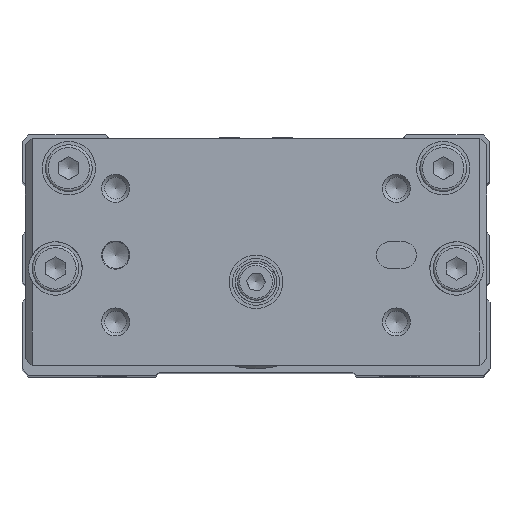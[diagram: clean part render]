
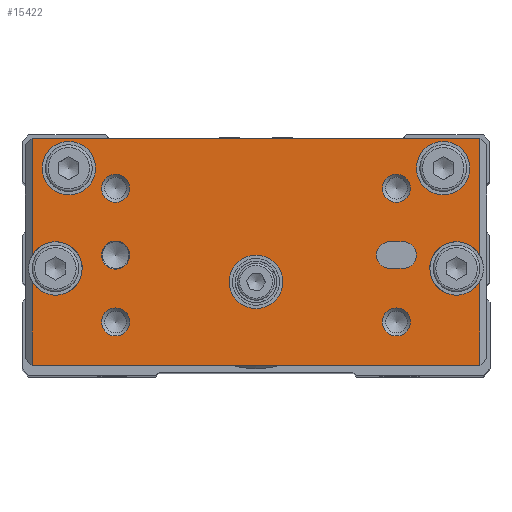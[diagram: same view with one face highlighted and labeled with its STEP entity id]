
A CAD part, top view. The second image highlights one B-rep face of the part: STEP entity #15422.
In plain terms, the highlighted planar face has unit normal (0, 0, 1).
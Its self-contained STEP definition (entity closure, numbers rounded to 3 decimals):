
#14778=CARTESIAN_POINT('',(0.634,10.496,85.028));
#14779=VERTEX_POINT('',#14778);
#14780=CARTESIAN_POINT('',(4.634,10.496,85.028));
#14781=VERTEX_POINT('',#14780);
#14782=CARTESIAN_POINT('',(2.634,10.496,85.028));
#14783=DIRECTION('',(0.0,0.0,-1.0));
#14784=DIRECTION('',(-1.0,0.0,0.0));
#14785=AXIS2_PLACEMENT_3D('',#14782,#14783,#14784);
#14786=CIRCLE('',#14785,2.0);
#14787=EDGE_CURVE('',#14779,#14781,#14786,.T.);
#14810=CARTESIAN_POINT('',(0.634,8.496,85.028));
#14811=VERTEX_POINT('',#14810);
#14812=CARTESIAN_POINT('',(0.634,8.496,85.028));
#14813=DIRECTION('',(0.0,1.0,0.0));
#14814=VECTOR('',#14813,2.);
#14815=LINE('',#14812,#14814);
#14816=EDGE_CURVE('',#14811,#14779,#14815,.T.);
#14834=CARTESIAN_POINT('',(4.634,8.496,85.028));
#14835=VERTEX_POINT('',#14834);
#14836=CARTESIAN_POINT('',(2.634,8.496,85.028));
#14837=DIRECTION('',(0.0,0.0,-1.0));
#14838=DIRECTION('',(1.0,0.0,0.0));
#14839=AXIS2_PLACEMENT_3D('',#14836,#14837,#14838);
#14840=CIRCLE('',#14839,2.0);
#14841=EDGE_CURVE('',#14835,#14811,#14840,.T.);
#14859=CARTESIAN_POINT('',(4.634,10.496,85.028));
#14860=DIRECTION('',(0.0,-1.0,0.0));
#14861=VECTOR('',#14860,2.);
#14862=LINE('',#14859,#14861);
#14863=EDGE_CURVE('',#14781,#14835,#14862,.T.);
#14893=CARTESIAN_POINT('',(4.734,-32.504,85.028));
#14894=VERTEX_POINT('',#14893);
#14895=CARTESIAN_POINT('',(2.634,-32.504,85.028));
#14896=DIRECTION('',(0.0,0.0,-1.0));
#14897=DIRECTION('',(1.0,0.0,0.0));
#14898=AXIS2_PLACEMENT_3D('',#14895,#14896,#14897);
#14899=CIRCLE('',#14898,2.1);
#14900=EDGE_CURVE('',#14894,#14894,#14899,.T.);
#14950=CARTESIAN_POINT('',(14.734,9.496,85.028));
#14951=VERTEX_POINT('',#14950);
#14952=CARTESIAN_POINT('',(12.634,9.496,85.028));
#14953=DIRECTION('',(0.0,0.0,-1.0));
#14954=DIRECTION('',(1.0,0.0,0.0));
#14955=AXIS2_PLACEMENT_3D('',#14952,#14953,#14954);
#14956=CIRCLE('',#14955,2.1);
#14957=EDGE_CURVE('',#14951,#14951,#14956,.T.);
#15007=CARTESIAN_POINT('',(-5.266,-32.504,85.028));
#15008=VERTEX_POINT('',#15007);
#15009=CARTESIAN_POINT('',(-7.366,-32.504,85.028));
#15010=DIRECTION('',(0.0,0.0,-1.0));
#15011=DIRECTION('',(1.0,0.0,0.0));
#15012=AXIS2_PLACEMENT_3D('',#15009,#15010,#15011);
#15013=CIRCLE('',#15012,2.1);
#15014=EDGE_CURVE('',#15008,#15008,#15013,.T.);
#15064=CARTESIAN_POINT('',(14.734,-32.504,85.028));
#15065=VERTEX_POINT('',#15064);
#15066=CARTESIAN_POINT('',(12.634,-32.504,85.028));
#15067=DIRECTION('',(0.0,0.0,-1.0));
#15068=DIRECTION('',(1.0,0.0,0.0));
#15069=AXIS2_PLACEMENT_3D('',#15066,#15067,#15068);
#15070=CIRCLE('',#15069,2.1);
#15071=EDGE_CURVE('',#15065,#15065,#15070,.T.);
#15121=CARTESIAN_POINT('',(-5.266,9.496,85.028));
#15122=VERTEX_POINT('',#15121);
#15123=CARTESIAN_POINT('',(-7.366,9.496,85.028));
#15124=DIRECTION('',(0.0,0.0,-1.0));
#15125=DIRECTION('',(1.0,0.0,0.0));
#15126=AXIS2_PLACEMENT_3D('',#15123,#15124,#15125);
#15127=CIRCLE('',#15126,2.1);
#15128=EDGE_CURVE('',#15122,#15122,#15127,.T.);
#15161=CARTESIAN_POINT('',(6.571,-45.004,85.028));
#15162=VERTEX_POINT('',#15161);
#15163=CARTESIAN_POINT('',(2.698,-45.004,85.028));
#15164=VERTEX_POINT('',#15163);
#15172=CARTESIAN_POINT('',(-14.866,-45.004,85.028));
#15173=VERTEX_POINT('',#15172);
#15174=CARTESIAN_POINT('',(2.698,-45.004,85.028));
#15175=DIRECTION('',(-1.0,0.0,0.0));
#15176=VECTOR('',#15175,17.564);
#15177=LINE('',#15174,#15176);
#15178=EDGE_CURVE('',#15164,#15173,#15177,.T.);
#15196=CARTESIAN_POINT('',(19.134,-45.004,85.028));
#15197=VERTEX_POINT('',#15196);
#15204=CARTESIAN_POINT('',(19.134,-45.004,85.028));
#15205=DIRECTION('',(-1.0,0.0,0.0));
#15206=VECTOR('',#15205,12.564);
#15207=LINE('',#15204,#15206);
#15208=EDGE_CURVE('',#15197,#15162,#15207,.T.);
#15257=CARTESIAN_POINT('',(2.698,21.996,85.028));
#15258=VERTEX_POINT('',#15257);
#15259=CARTESIAN_POINT('',(6.571,21.996,85.028));
#15260=VERTEX_POINT('',#15259);
#15268=CARTESIAN_POINT('',(19.134,21.996,85.028));
#15269=VERTEX_POINT('',#15268);
#15270=CARTESIAN_POINT('',(6.571,21.996,85.028));
#15271=DIRECTION('',(1.0,0.0,0.0));
#15272=VECTOR('',#15271,12.564);
#15273=LINE('',#15270,#15272);
#15274=EDGE_CURVE('',#15260,#15269,#15273,.T.);
#15292=CARTESIAN_POINT('',(-14.866,21.996,85.028));
#15293=VERTEX_POINT('',#15292);
#15300=CARTESIAN_POINT('',(-14.866,21.996,85.028));
#15301=DIRECTION('',(1.0,0.0,0.0));
#15302=VECTOR('',#15301,17.564);
#15303=LINE('',#15300,#15302);
#15304=EDGE_CURVE('',#15293,#15258,#15303,.T.);
#15331=CARTESIAN_POINT('',(2.134,-11.504,85.028));
#15332=DIRECTION('',(0.0,0.0,1.0));
#15333=DIRECTION('',(1.0,0.0,0.0));
#15334=AXIS2_PLACEMENT_3D('',#15331,#15332,#15333);
#15335=PLANE('',#15334);
#15336=ORIENTED_EDGE('',*,*,#15208,.F.);
#15337=CARTESIAN_POINT('',(19.134,-45.004,85.028));
#15338=DIRECTION('',(0.0,1.0,0.0));
#15339=VECTOR('',#15338,67.);
#15340=LINE('',#15337,#15339);
#15341=EDGE_CURVE('',#15197,#15269,#15340,.T.);
#15342=ORIENTED_EDGE('',*,*,#15341,.T.);
#15343=ORIENTED_EDGE('',*,*,#15274,.F.);
#15344=CARTESIAN_POINT('',(4.634,18.496,85.028));
#15345=DIRECTION('',(0.0,0.0,-1.0));
#15346=DIRECTION('',(1.0,0.0,0.0));
#15347=AXIS2_PLACEMENT_3D('',#15344,#15345,#15346);
#15348=CIRCLE('',#15347,4.);
#15349=EDGE_CURVE('',#15260,#15258,#15348,.T.);
#15350=ORIENTED_EDGE('',*,*,#15349,.T.);
#15351=ORIENTED_EDGE('',*,*,#15304,.F.);
#15352=CARTESIAN_POINT('',(-14.866,21.996,85.028));
#15353=DIRECTION('',(0.0,-1.0,0.0));
#15354=VECTOR('',#15353,67.);
#15355=LINE('',#15352,#15354);
#15356=EDGE_CURVE('',#15293,#15173,#15355,.T.);
#15357=ORIENTED_EDGE('',*,*,#15356,.T.);
#15358=ORIENTED_EDGE('',*,*,#15178,.F.);
#15359=CARTESIAN_POINT('',(4.634,-41.504,85.028));
#15360=DIRECTION('',(0.0,0.0,-1.0));
#15361=DIRECTION('',(1.0,0.0,0.0));
#15362=AXIS2_PLACEMENT_3D('',#15359,#15360,#15361);
#15363=CIRCLE('',#15362,4.);
#15364=EDGE_CURVE('',#15164,#15162,#15363,.T.);
#15365=ORIENTED_EDGE('',*,*,#15364,.T.);
#15366=EDGE_LOOP('',(#15336,#15342,#15343,#15350,#15351,#15357,#15358,#15365));
#15367=FACE_OUTER_BOUND('',#15366,.T.);
#15368=ORIENTED_EDGE('',*,*,#14787,.T.);
#15369=ORIENTED_EDGE('',*,*,#14863,.T.);
#15370=ORIENTED_EDGE('',*,*,#14841,.T.);
#15371=ORIENTED_EDGE('',*,*,#14816,.T.);
#15372=EDGE_LOOP('',(#15368,#15369,#15370,#15371));
#15373=FACE_BOUND('',#15372,.T.);
#15374=ORIENTED_EDGE('',*,*,#14900,.T.);
#15375=EDGE_LOOP('',(#15374));
#15376=FACE_BOUND('',#15375,.T.);
#15377=ORIENTED_EDGE('',*,*,#14957,.T.);
#15378=EDGE_LOOP('',(#15377));
#15379=FACE_BOUND('',#15378,.T.);
#15380=ORIENTED_EDGE('',*,*,#15014,.T.);
#15381=EDGE_LOOP('',(#15380));
#15382=FACE_BOUND('',#15381,.T.);
#15383=ORIENTED_EDGE('',*,*,#15071,.T.);
#15384=EDGE_LOOP('',(#15383));
#15385=FACE_BOUND('',#15384,.T.);
#15386=ORIENTED_EDGE('',*,*,#15128,.T.);
#15387=EDGE_LOOP('',(#15386));
#15388=FACE_BOUND('',#15387,.T.);
#15389=CARTESIAN_POINT('',(10.634,-11.504,85.028));
#15390=VERTEX_POINT('',#15389);
#15391=CARTESIAN_POINT('',(6.634,-11.504,85.028));
#15392=DIRECTION('',(0.0,0.0,-1.0));
#15393=DIRECTION('',(-1.0,0.0,0.0));
#15394=AXIS2_PLACEMENT_3D('',#15391,#15392,#15393);
#15395=CIRCLE('',#15394,4.);
#15396=EDGE_CURVE('',#15390,#15390,#15395,.T.);
#15397=ORIENTED_EDGE('',*,*,#15396,.T.);
#15398=EDGE_LOOP('',(#15397));
#15399=FACE_BOUND('',#15398,.T.);
#15400=CARTESIAN_POINT('',(-6.366,16.496,85.028));
#15401=VERTEX_POINT('',#15400);
#15402=CARTESIAN_POINT('',(-10.366,16.496,85.028));
#15403=DIRECTION('',(0.0,0.0,-1.0));
#15404=DIRECTION('',(1.0,0.0,0.0));
#15405=AXIS2_PLACEMENT_3D('',#15402,#15403,#15404);
#15406=CIRCLE('',#15405,4.);
#15407=EDGE_CURVE('',#15401,#15401,#15406,.T.);
#15408=ORIENTED_EDGE('',*,*,#15407,.T.);
#15409=EDGE_LOOP('',(#15408));
#15410=FACE_BOUND('',#15409,.T.);
#15411=CARTESIAN_POINT('',(-6.366,-39.504,85.028));
#15412=VERTEX_POINT('',#15411);
#15413=CARTESIAN_POINT('',(-10.366,-39.504,85.028));
#15414=DIRECTION('',(0.0,0.0,-1.0));
#15415=DIRECTION('',(1.0,0.0,0.0));
#15416=AXIS2_PLACEMENT_3D('',#15413,#15414,#15415);
#15417=CIRCLE('',#15416,4.);
#15418=EDGE_CURVE('',#15412,#15412,#15417,.T.);
#15419=ORIENTED_EDGE('',*,*,#15418,.T.);
#15420=EDGE_LOOP('',(#15419));
#15421=FACE_BOUND('',#15420,.T.);
#15422=ADVANCED_FACE('',(#15367,#15373,#15376,#15379,#15382,#15385,#15388,#15399,#15410,#15421),#15335,.T.);
